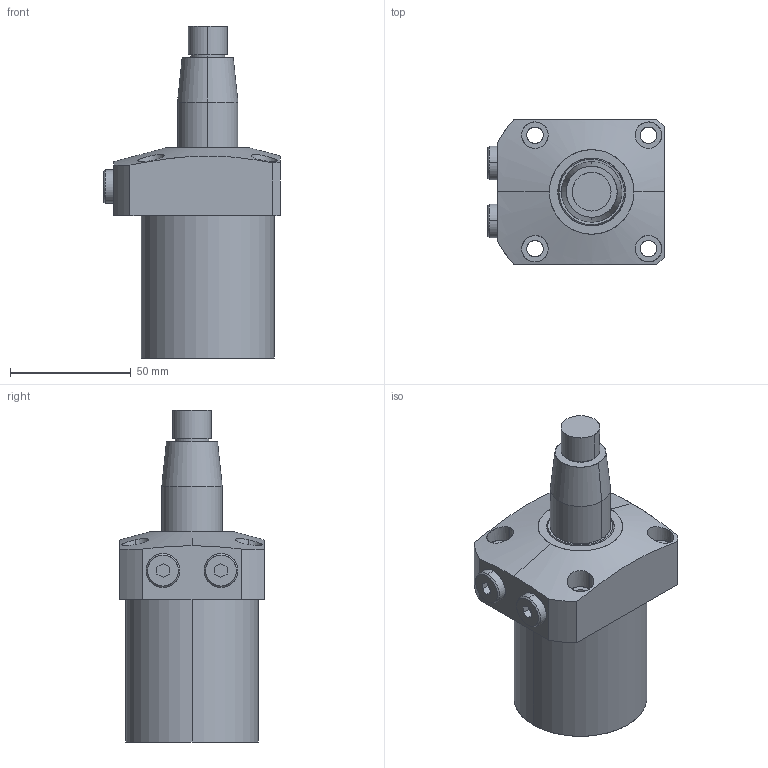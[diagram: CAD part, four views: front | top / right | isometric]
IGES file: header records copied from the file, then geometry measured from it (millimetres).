
Start section: SolidWorks IGES file using analytic representation for surfaces
Global section: file name: E:\karthik\CLASYS\Pneumatic Swing cylinders\Top mount cyl 0311\55\0311-0551.IGS; native system: SolidWorks 2010; preprocessor: SolidWorks 2010; author: karthik; date: 130916.100517; units: millimetre
Bounding box: 73 x 60 x 137.5 mm (x, y, z)
Surface area: 33088.8 mm2 (no closed solid volume)
Topology: 0 solids, 0 shells, 121 faces, 2747 edges, 2747 vertices
Faces by surface type: revolution 76, bspline 45
